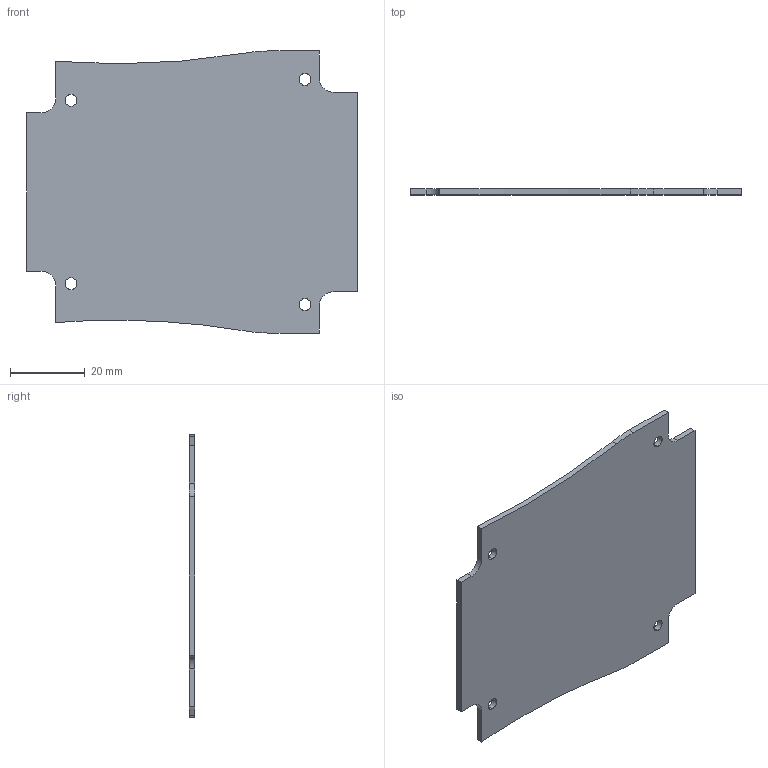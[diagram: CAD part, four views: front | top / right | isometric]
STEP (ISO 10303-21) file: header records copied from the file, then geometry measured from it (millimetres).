
FILE_DESCRIPTION (( 'STEP AP214' ), '1' );
FILE_NAME ('VM-35C-PCB.STEP', '2025-03-26T16:53:37', ( '' ), ( '' ), 'SwSTEP 2.0', 'SolidWorks 2025', '' );
FILE_SCHEMA (( 'AUTOMOTIVE_DESIGN' ));
Length unit declared in the file: inch
Products named in the file (1): VM-35C-PCB
Bounding box: 88.61 x 1.59 x 75.61 mm (x, y, z)
Volume: 9394.9 mm3; surface area: 12402.7 mm2
Topology: 1 solids, 1 shells, 31 faces, 87 edges, 58 vertices
Faces by surface type: cylinder 17, plane 14
Entity records: 1058 total; most frequent: DIRECTION 185, CARTESIAN_POINT 177, ORIENTED_EDGE 174, EDGE_CURVE 87, AXIS2_PLACEMENT_3D 66, VERTEX_POINT 58, LINE 53, VECTOR 53
